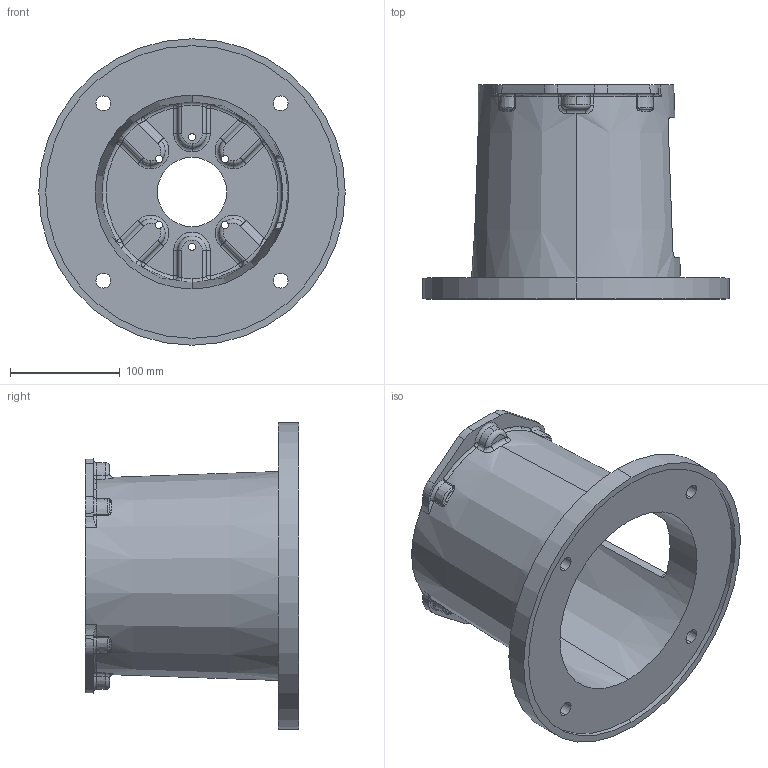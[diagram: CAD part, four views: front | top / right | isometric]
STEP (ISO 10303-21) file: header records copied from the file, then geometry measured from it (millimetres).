
FILE_DESCRIPTION (( 'STEP AP203' ), '1' );
FILE_NAME ('M2847563M.STEP', '2015-01-19T16:29:08', ( '' ), ( '' ), 'SwSTEP 2.0', 'SolidWorks 2014', '' );
FILE_SCHEMA (( 'CONFIG_CONTROL_DESIGN' ));
Length unit declared in the file: inch
Products named in the file (1): M2847563M
Bounding box: 279.4 x 195.07 x 279.4 mm (x, y, z)
Volume: 1484642.7 mm3; surface area: 333056.4 mm2
Topology: 1 solids, 1 shells, 346 faces, 884 edges, 519 vertices
Faces by surface type: torus 105, cylinder 86, bspline 64, plane 45, sphere 24, cone 22
Entity records: 14233 total; most frequent: CARTESIAN_POINT 6246, ORIENTED_EDGE 1728, DIRECTION 1666, EDGE_CURVE 864, AXIS2_PLACEMENT_3D 753, VERTEX_POINT 519, CIRCLE 470, EDGE_LOOP 369
